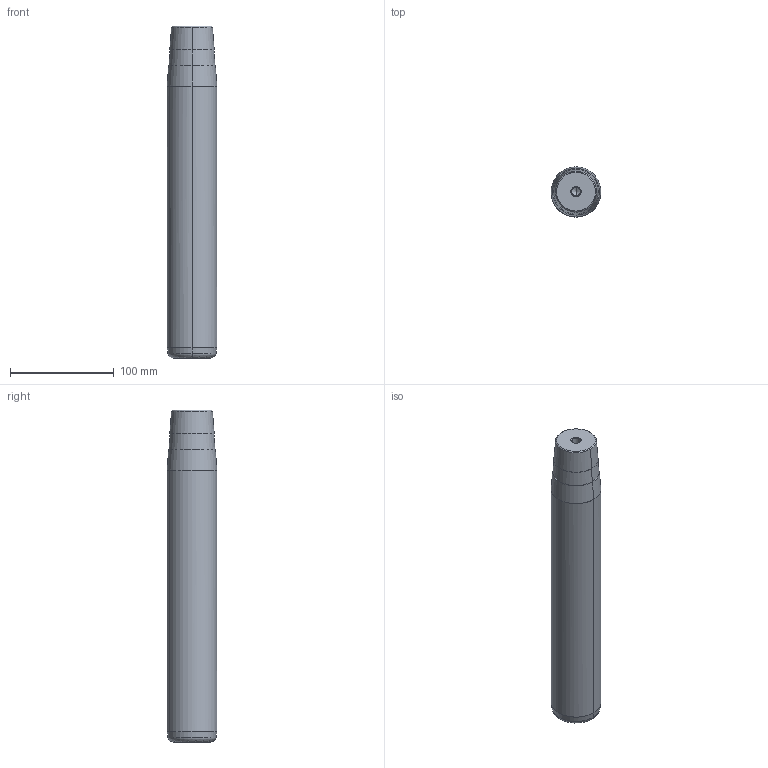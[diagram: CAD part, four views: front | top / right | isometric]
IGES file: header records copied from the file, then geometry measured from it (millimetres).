
Start section: START RECORD GO HERE.
Global section: file name: 722-48x280x320.igs; native system: DASSAULT SYSTEMES CATIA V5 R20 - www.3ds.com; preprocessor: CATIA Version 5 Release 20 ; author: Utente; organization: NB04-ASUS; date: 20210108.160050; units: millimetre
Bounding box: 48 x 48 x 320 mm (x, y, z)
Surface area: 51389.7 mm2 (no closed solid volume)
Topology: 0 solids, 0 shells, 32 faces, 192 edges, 188 vertices
Faces by surface type: revolution 30, plane 2
